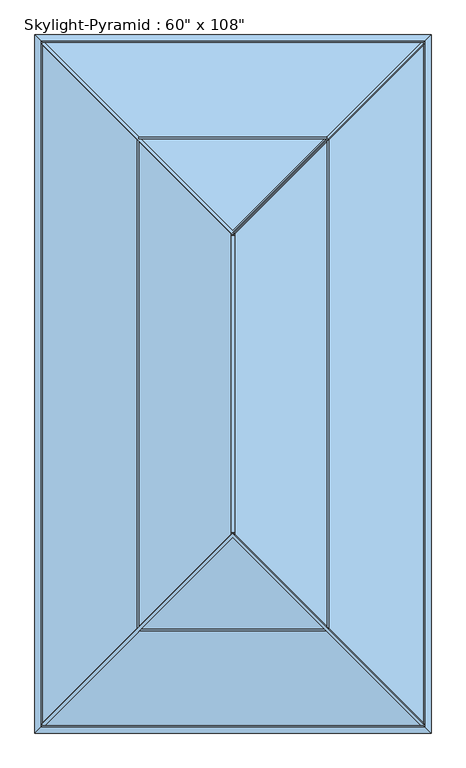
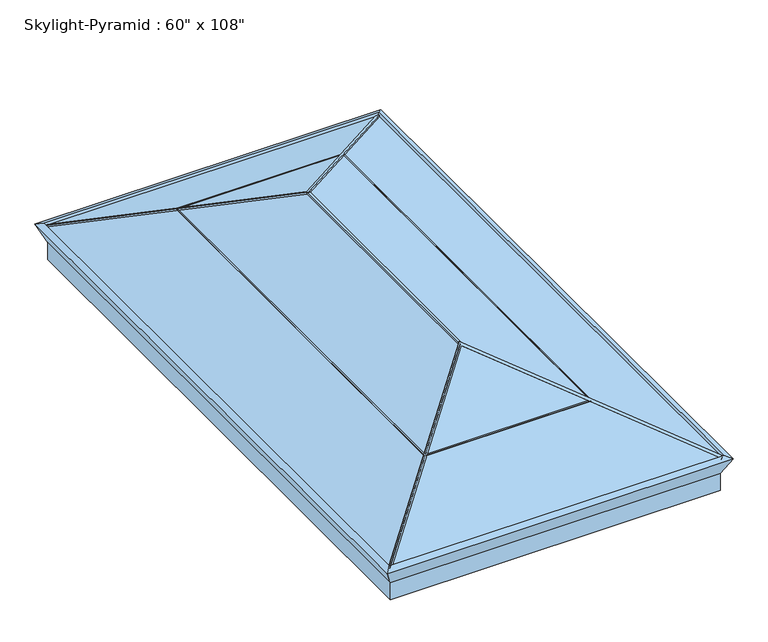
"""IFC4 building model written with IfcOpenShell, lengths in millimetres: window geometry."""

from ifc_helpers import new_model, si_unit, frame, origin, place, context, project, spatial, polyline, outline, extrude, faceted_brep, source, transform, mapped, element, save


def window_740b1336(model_context):
    return source(origin(), model_context, "Body", "SolidModel", [
        extrude(outline(polyline([(758.8028832, 0.0), (758.8028832, -6.3500001), (0.0, -6.3500001), (0.0, 0.0), (758.8028832, 0.0)])), frame((379.4014416, 989.5973311, 4305.4065549), z_axis=(0.0, 0.4226182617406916, 0.9063077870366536), x_axis=(-1.0, 0.0, 0.0)), (0.0, 0.0, 1.0), 3.175),
        extrude(outline(polyline([(1978.9715236, 0.0), (1978.9715236, -6.3500001), (0.0, -6.3500001), (0.0, 0.0), (1978.9715236, 0.0)])), frame((379.9973311, -989.4857618, 4305.4065549), z_axis=(0.4226182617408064, 0.0, 0.9063077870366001), x_axis=(0.0, 1.0, 0.0)), (0.0, 0.0, 1.0), 3.175),
        extrude(outline(polyline([(1978.9715236, 0.0), (1978.9715236, -6.3499999), (0.0, -6.3499999), (0.0, 0.0), (1978.9715236, 0.0)])), frame((-380.3327844, 989.4857618, 4306.1259367), z_axis=(-0.4226182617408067, 0.0, 0.9063077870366), x_axis=(0.0, -1.0, 0.0)), (0.0, 0.0, 1.0), 1.5875),
        extrude(outline(polyline([(758.8028832, 0.0), (758.8028832, -6.3500001), (0.0, -6.3500001), (0.0, 0.0), (758.8028832, 0.0)])), frame((-379.4014416, -989.5973311, 4305.4065549), z_axis=(0.0, -0.4226182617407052, 0.9063077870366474), x_axis=(1.0, 0.0, 0.0)), (0.0, 0.0, 1.0), 3.175),
        extrude(outline(polyline([(614.2507601, 4471.6538329), (-614.2507601, 4471.6538329), (-614.2507601, 4482.1851479), (-600.5215874, 4488.5871663), (600.5215874, 4488.5871663), (614.2507601, 4482.1851479), (614.2507601, 4471.6538329)])), frame((-6.35, 0.0, 0.0), z_axis=(1.0, 0.0, 0.0), x_axis=(0.0, 1.0, 0.0)), (0.0, 0.0, 1.0), 12.7),
        extrude(outline(polyline([(0.0, -12.7), (0.0, 0.0), (1137.0838643, 0.0), (1025.5812216, 1131.603674), (1038.2200138, 1132.8490383), (1151.0967638, -12.7), (0.0, -12.7)])), frame((763.6006347, -1378.3304744, 4116.9075713), z_axis=(0.0, -0.4226182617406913, 0.9063077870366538), x_axis=(-0.6715429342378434, 0.6715429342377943, 0.3131456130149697)), (0.0, 0.0, 1.0), 10.31875),
        extrude(outline(polyline([(0.0, -12.7), (0.0, 0.0), (1137.0838643, 0.0), (1025.5812216, 1131.603674), (1038.2200138, 1132.8490383), (1151.0967638, -12.7), (0.0, -12.7)])), frame((-763.6006347, 1377.2573844, 4114.6063225), z_axis=(0.0, 0.42261826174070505, 0.9063077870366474), x_axis=(0.6715429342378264, -0.6715429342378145, 0.31314561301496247)), (0.0, 0.0, 1.0), 12.7),
        extrude(outline(polyline([(1144.090314, 0.0), (1031.9006177, -1138.5763561), (0.0, 0.0), (1144.090314, 0.0)])), frame((-768.3057665, -1375.5575938, 4121.0512976), z_axis=(0.0, -0.42261826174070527, 0.9063077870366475), x_axis=(0.6715429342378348, 0.671542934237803, 0.3131456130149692)), (0.0, 0.0, 1.0), 5.55625),
        extrude(outline(polyline([(1144.090314, 0.0), (1031.9006177, -1138.5763561), (0.0, 0.0), (1144.090314, 0.0)])), frame((768.3057665, 1375.5575938, 4121.0512976), z_axis=(0.0, 0.4226182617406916, 0.9063077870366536), x_axis=(-0.6715429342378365, -0.6715429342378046, 0.31314561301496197)), (0.0, 0.0, 1.0), 5.55625),
        faceted_brep([(-768.3057665, -1377.9057665, 4126.0869702), (-765.9575938, -1377.9057665, 4121.0512976), (-755.158559, -1377.9057665, 4126.0869702), (765.9575938, -1377.9057665, 4121.0512976), (768.3057665, -1377.9057665, 4126.0869702), (755.158559, -1377.9057665, 4126.0869702), (768.3057665, 1377.9057665, 4126.0869702), (765.9575938, 1377.9057665, 4121.0512976), (755.158559, 1377.9057665, 4126.0869702), (-765.9575938, 1377.9057665, 4121.0512976), (-768.3057665, 1377.9057665, 4126.0869702), (-755.158559, 1377.9057665, 4126.0869702), (0.0, 622.7472075, 4478.2231894), (0.0, -622.7472075, 4478.2231894), (0.0, 609.6, 4484.3538329), (0.0, -609.6, 4484.3538329)], [[[0, 1, 2]], [[3, 4, 5]], [[6, 7, 8]], [[9, 10, 11]], [[1, 0, 10, 9]], [[1, 9, 11, 12, 13, 2]], [[7, 3, 5, 13, 12, 8]], [[4, 3, 7, 6]], [[4, 6, 14, 15]], [[10, 0, 15, 14]], [[11, 10, 14, 6, 8, 12]], [[0, 2, 13, 5, 4, 15]]]),
        faceted_brep([(762.0, 1371.6, 3962.4), (762.0, 1371.6, 4044.95), (762.0, -1371.6, 4044.95), (762.0, -1371.6, 3962.4), (733.425, 1343.025, 4051.284925), (733.425, 1343.025, 3962.4), (733.425, -1343.025, 3962.4), (733.425, -1343.025, 4051.284925), (-762.0, -1371.6, 4044.95), (-762.0, -1371.6, 3962.4), (-733.425, -1343.025, 3962.4), (-733.425, -1343.025, 4051.284925), (-762.0, 1371.6, 4044.95), (-762.0, 1371.6, 3962.4), (-733.425, 1343.025, 3962.4), (-733.425, 1343.025, 4051.284925), (773.6730185, 1383.2730185, 4137.5970791), (773.6730185, -1383.2730185, 4137.5970791), (799.5707635, 1409.1707635, 4125.5207623), (799.5707635, -1409.1707635, 4125.5207623), (-773.6730185, -1383.2730185, 4137.5970791), (-799.5707635, -1409.1707635, 4125.5207623), (-773.6730185, 1383.2730185, 4137.5970791), (-799.5707635, 1409.1707635, 4125.5207623)], [[[0, 1, 2, 3]], [[4, 5, 6, 7]], [[3, 2, 8, 9]], [[7, 6, 10, 11]], [[9, 8, 12, 13]], [[11, 10, 14, 15]], [[13, 12, 1, 0]], [[3, 9, 13, 0], [5, 14, 10, 6]], [[15, 14, 5, 4]], [[16, 4, 7, 17]], [[18, 16, 17, 19]], [[1, 18, 19, 2]], [[17, 7, 11, 20]], [[19, 17, 20, 21]], [[2, 19, 21, 8]], [[20, 11, 15, 22]], [[21, 20, 22, 23]], [[8, 21, 23, 12]], [[22, 15, 4, 16]], [[23, 22, 16, 18]], [[12, 23, 18, 1]]]),
    ])


if __name__ == "__main__":
    model = new_model("IFC4")
    model_context = context("Model", 3, world=origin())
    ifc_project = project(units=[si_unit("LENGTHUNIT", "METRE", prefix="MILLI")], contexts=[model_context])
    site = spatial("IfcSite", under=ifc_project)
    building = spatial("IfcBuilding", under=site)
    placement = place(None, origin())
    window_shape = window_740b1336(model_context)
    element("IfcWindow", 1, ObjectType="Skylight-Pyramid : 60\" x 108\"", at=placement, inside=building, context=model_context, shape_type="MappedRepresentation", body=[
        mapped(window_shape, transform((0.0, 0.0, 0.0), x_axis=(1.0, 0.0, 0.0), y_axis=(0.0, 1.0, 0.0), z_axis=(0.0, 0.0, 1.0))),
    ])
    save(model, "model.ifc")
